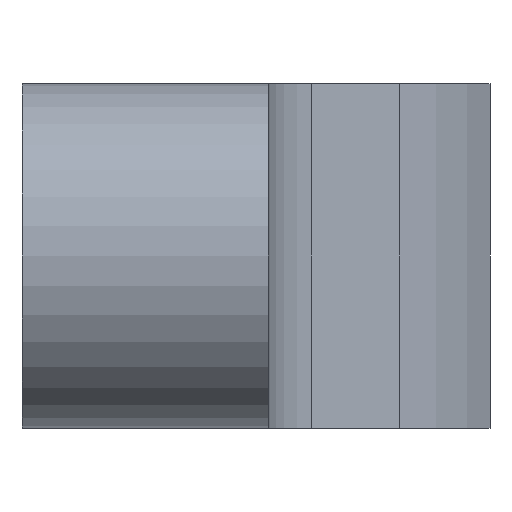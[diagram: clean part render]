
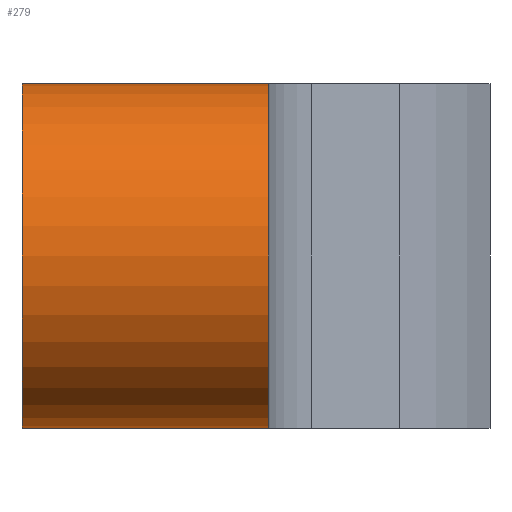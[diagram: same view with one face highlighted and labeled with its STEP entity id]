
A CAD part, left-side view. The second image highlights one B-rep face of the part: STEP entity #279.
In plain terms, the highlighted cylindrical face has radius 3.5 mm (diameter 7 mm), a partial arc.
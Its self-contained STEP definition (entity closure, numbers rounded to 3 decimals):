
#54 = EDGE_CURVE ( 'NONE', #596, #560, #125, .T. ) ;
#68 = ORIENTED_EDGE ( 'NONE', *, *, #203, .F. ) ;
#102 = DIRECTION ( 'NONE',  ( 0., 0., 1. ) ) ;
#116 = DIRECTION ( 'NONE',  ( 0., 0., -1. ) ) ;
#125 = CIRCLE ( 'NONE', #330, 3.5 ) ;
#130 = CYLINDRICAL_SURFACE ( 'NONE', #228, 3.5 ) ;
#132 = VECTOR ( 'NONE', #153, 1000. ) ;
#140 = CIRCLE ( 'NONE', #403, 3.5 ) ;
#153 = DIRECTION ( 'NONE',  ( 0., -1., 0. ) ) ;
#158 = CARTESIAN_POINT ( 'NONE',  ( 0., 6., -3.5 ) ) ;
#162 = EDGE_CURVE ( 'NONE', #363, #285, #140, .T. ) ;
#172 = ORIENTED_EDGE ( 'NONE', *, *, #54, .T. ) ;
#186 = CARTESIAN_POINT ( 'NONE',  ( 0., 5., -3.5 ) ) ;
#201 = ORIENTED_EDGE ( 'NONE', *, *, #162, .F. ) ;
#203 = EDGE_CURVE ( 'NONE', #285, #560, #552, .T. ) ;
#204 = DIRECTION ( 'NONE',  ( 0., 1., 0. ) ) ;
#210 = CARTESIAN_POINT ( 'NONE',  ( 0., 10., 3.5 ) ) ;
#228 = AXIS2_PLACEMENT_3D ( 'NONE', #454, #364, #116 ) ;
#232 = EDGE_CURVE ( 'NONE', #363, #596, #500, .T. ) ;
#279 = ADVANCED_FACE ( 'NONE', ( #398 ), #130, .T. ) ;
#285 = VERTEX_POINT ( 'NONE', #210 ) ;
#305 = CARTESIAN_POINT ( 'NONE',  ( 0., 10., -3.5 ) ) ;
#330 = AXIS2_PLACEMENT_3D ( 'NONE', #386, #479, #383 ) ;
#347 = CARTESIAN_POINT ( 'NONE',  ( 0., 10., 0. ) ) ;
#363 = VERTEX_POINT ( 'NONE', #305 ) ;
#364 = DIRECTION ( 'NONE',  ( 0., -1., 0. ) ) ;
#383 = DIRECTION ( 'NONE',  ( 0., 0., 1. ) ) ;
#386 = CARTESIAN_POINT ( 'NONE',  ( 0., 5., 0. ) ) ;
#398 = FACE_OUTER_BOUND ( 'NONE', #511, .T. ) ;
#403 = AXIS2_PLACEMENT_3D ( 'NONE', #347, #204, #102 ) ;
#425 = CARTESIAN_POINT ( 'NONE',  ( 0., 5., 3.5 ) ) ;
#443 = DIRECTION ( 'NONE',  ( 0., -1., 0. ) ) ;
#454 = CARTESIAN_POINT ( 'NONE',  ( 0., 6., 0. ) ) ;
#479 = DIRECTION ( 'NONE',  ( 0., 1., 0. ) ) ;
#500 = LINE ( 'NONE', #158, #541 ) ;
#511 = EDGE_LOOP ( 'NONE', ( #526, #172, #68, #201 ) ) ;
#526 = ORIENTED_EDGE ( 'NONE', *, *, #232, .T. ) ;
#541 = VECTOR ( 'NONE', #443, 1000. ) ;
#543 = CARTESIAN_POINT ( 'NONE',  ( 0., 6., 3.5 ) ) ;
#552 = LINE ( 'NONE', #543, #132 ) ;
#560 = VERTEX_POINT ( 'NONE', #425 ) ;
#596 = VERTEX_POINT ( 'NONE', #186 ) ;
